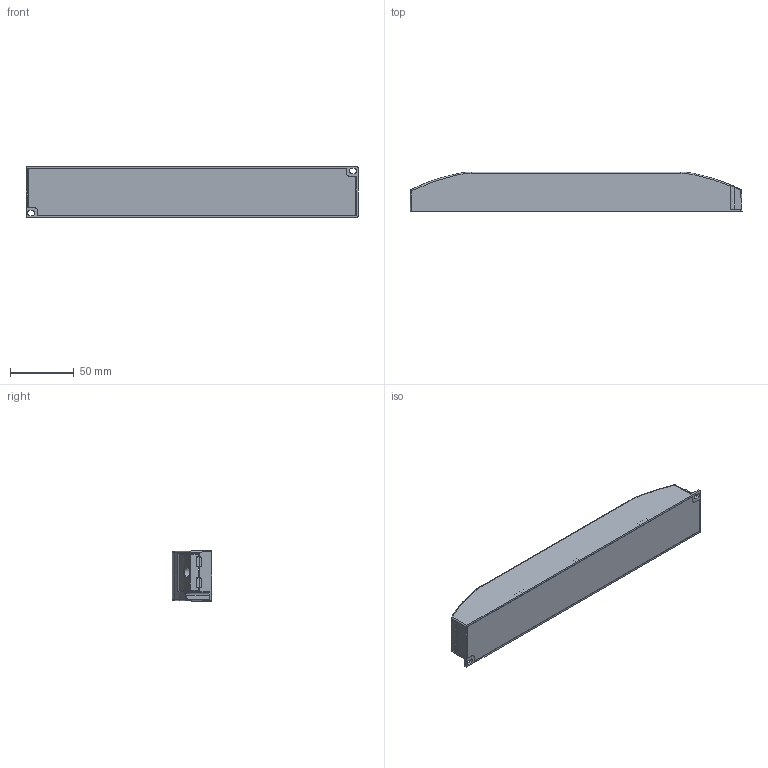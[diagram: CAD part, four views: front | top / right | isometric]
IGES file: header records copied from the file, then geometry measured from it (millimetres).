
Start section: File generated by HOOPS Exchange Version 11.2.20
Global section: file name: ELEMENT 120 24V G2 3D STEP.igs; native system: HOOPS Exchange; preprocessor: 11.2.20; date: 191204.133912; units: millimetre
Bounding box: 260 x 31 x 40 mm (x, y, z)
Volume: 59584.6 mm3; surface area: 85070.4 mm2
Topology: 4 solids, 4 shells, 881 faces, 2400 edges, 1537 vertices
Faces by surface type: bspline 881
